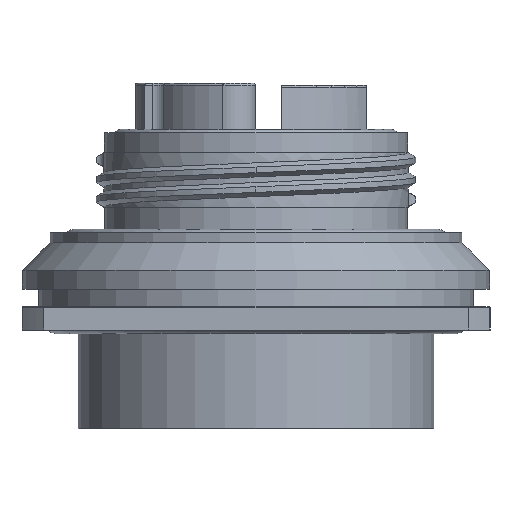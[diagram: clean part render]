
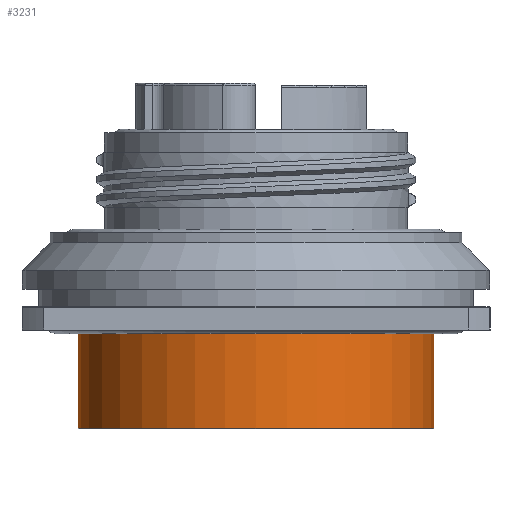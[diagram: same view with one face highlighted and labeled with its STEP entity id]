
A CAD part, left-side view. The second image highlights one B-rep face of the part: STEP entity #3231.
In plain terms, the highlighted cylindrical face has radius 22.86 mm (diameter 45.72 mm), a partial arc.
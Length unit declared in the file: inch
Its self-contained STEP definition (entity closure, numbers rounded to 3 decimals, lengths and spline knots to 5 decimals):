
#18 = DIRECTION ( 'NONE',  ( 0., 0., -1. ) ) ;
#95 = CIRCLE ( 'NONE', #30948, 0.9 ) ;
#2331 = LINE ( 'NONE', #2910, #16526 ) ;
#2910 = CARTESIAN_POINT ( 'NONE',  ( 0., 0.9, 0. ) ) ;
#3231 = ADVANCED_FACE ( 'NONE', ( #26352 ), #32480, .T. ) ;
#3965 = ORIENTED_EDGE ( 'NONE', *, *, #12674, .F. ) ;
#4207 = AXIS2_PLACEMENT_3D ( 'NONE', #25722, #10752, #17059 ) ;
#5479 = LINE ( 'NONE', #32676, #7913 ) ;
#5522 = ORIENTED_EDGE ( 'NONE', *, *, #34432, .T. ) ;
#5666 = DIRECTION ( 'NONE',  ( 0., 0., -1. ) ) ;
#5946 = CARTESIAN_POINT ( 'NONE',  ( 0., 0., -1. ) ) ;
#7913 = VECTOR ( 'NONE', #5666, 39.37008 ) ;
#10752 = DIRECTION ( 'NONE',  ( 0., 0., -1. ) ) ;
#11764 = DIRECTION ( 'NONE',  ( 0., 1., 0. ) ) ;
#12674 = EDGE_CURVE ( 'NONE', #30889, #27581, #5479, .T. ) ;
#14060 = CARTESIAN_POINT ( 'NONE',  ( 0., 0.9, -1.49856 ) ) ;
#15509 = VERTEX_POINT ( 'NONE', #16584 ) ;
#16526 = VECTOR ( 'NONE', #20825, 39.37008 ) ;
#16584 = CARTESIAN_POINT ( 'NONE',  ( 0., 0.9, -1. ) ) ;
#17059 = DIRECTION ( 'NONE',  ( 0., 1., 0. ) ) ;
#17198 = DIRECTION ( 'NONE',  ( 0., 1., 0. ) ) ;
#17439 = CIRCLE ( 'NONE', #4207, 0.9 ) ;
#20425 = CARTESIAN_POINT ( 'NONE',  ( 0., 0., 0. ) ) ;
#20542 = CARTESIAN_POINT ( 'NONE',  ( 0., -0.9, -1. ) ) ;
#20825 = DIRECTION ( 'NONE',  ( 0., 0., -1. ) ) ;
#21265 = ORIENTED_EDGE ( 'NONE', *, *, #28620, .F. ) ;
#22197 = EDGE_LOOP ( 'NONE', ( #3965, #34831, #5522, #21265 ) ) ;
#23557 = VERTEX_POINT ( 'NONE', #14060 ) ;
#25428 = AXIS2_PLACEMENT_3D ( 'NONE', #20425, #26730, #11764 ) ;
#25722 = CARTESIAN_POINT ( 'NONE',  ( 0., 0., -1.49856 ) ) ;
#26352 = FACE_OUTER_BOUND ( 'NONE', #22197, .T. ) ;
#26730 = DIRECTION ( 'NONE',  ( 0., 0., -1. ) ) ;
#27581 = VERTEX_POINT ( 'NONE', #28473 ) ;
#28473 = CARTESIAN_POINT ( 'NONE',  ( 0., -0.9, -1.49856 ) ) ;
#28620 = EDGE_CURVE ( 'NONE', #27581, #23557, #17439, .T. ) ;
#30889 = VERTEX_POINT ( 'NONE', #20542 ) ;
#30948 = AXIS2_PLACEMENT_3D ( 'NONE', #5946, #18, #17198 ) ;
#32480 = CYLINDRICAL_SURFACE ( 'NONE', #25428, 0.9 ) ;
#32676 = CARTESIAN_POINT ( 'NONE',  ( 0., -0.9, 0. ) ) ;
#34432 = EDGE_CURVE ( 'NONE', #15509, #23557, #2331, .T. ) ;
#34831 = ORIENTED_EDGE ( 'NONE', *, *, #39051, .T. ) ;
#39051 = EDGE_CURVE ( 'NONE', #30889, #15509, #95, .T. ) ;
